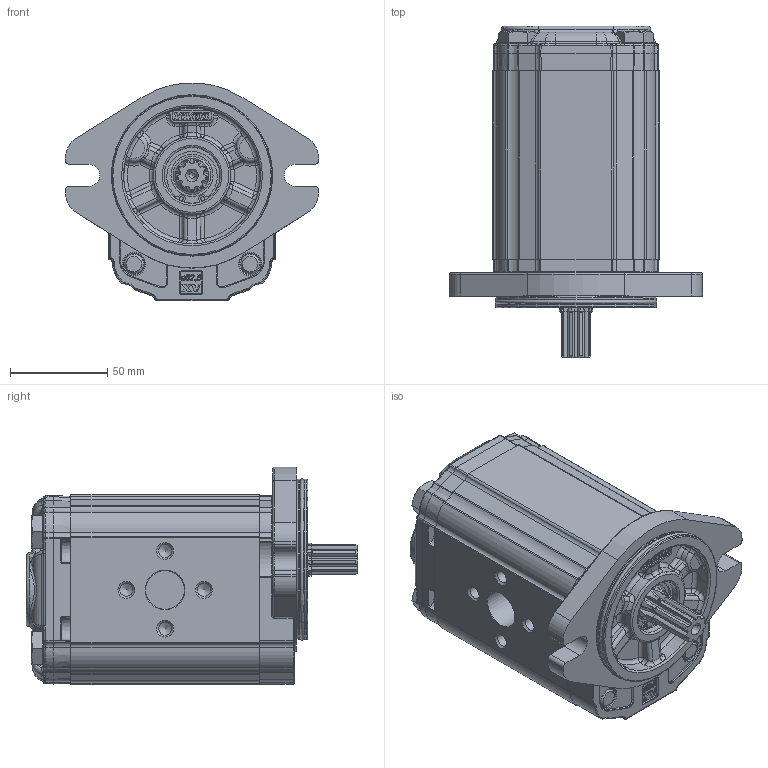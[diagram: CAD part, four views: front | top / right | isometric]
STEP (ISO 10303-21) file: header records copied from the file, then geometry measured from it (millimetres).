
FILE_DESCRIPTION(/* description */ ('Unknown'),/* implementation_level */ '2;1');
FILE_NAME(/* name */ 'X2P6151IQPA',/* time_stamp */ '2020-09-21T10:32:53+02:00',/* author */ ('Unknown'),/* organization */ ('Unknown'),/* preprocessor_version */ 'ST-DEVELOPER v16.7',/* originating_system */ 'DEX',/* authorisation */ $);
FILE_SCHEMA (('AUTOMOTIVE_DESIGN {1 0 10303 214 3 1 1}'));
Products named in the file (5): X2P6151IQPA; X2P51; 2I; X2QPH97; XP219-A
Assembly tree (4 placements, depth 2):
  X2P6151IQPA
    X2P51
    2I
    X2QPH97
    XP219-A
Bounding box: 130.38 x 170.7 x 112.3 mm (x, y, z)
Volume: 1011761.5 mm3; surface area: 135065 mm2
Topology: 4 solids, 5 shells, 2223 faces, 5483 edges, 3330 vertices
Faces by surface type: cylinder 661, plane 591, bspline 570, torus 247, cone 116, sphere 38
Full cylindrical faces by diameter (mm): 2 x2, 6.647 x8, 10 x4, 10.5 x4, 11 x2, 11.5 x4, 16 x4, 17.42 x1, 17.48 x2, 18.724 x1, 20 x1, 20.595 x1, 21.741 x1, 23.5 x1, 25.834 x1, 28.56 x1, 28.57 x1, 28.8 x1, 30.4 x1, 79.6 x2, 82.5 x2
Entity records: 101724 total; most frequent: CARTESIAN_POINT 39174, ORIENTED_EDGE 10532, DIRECTION 8859, EDGE_CURVE 5266, AXIS2_PLACEMENT_3D 3383, VERTEX_POINT 3266, FACE_BOUND 2446, EDGE_LOOP 2436
